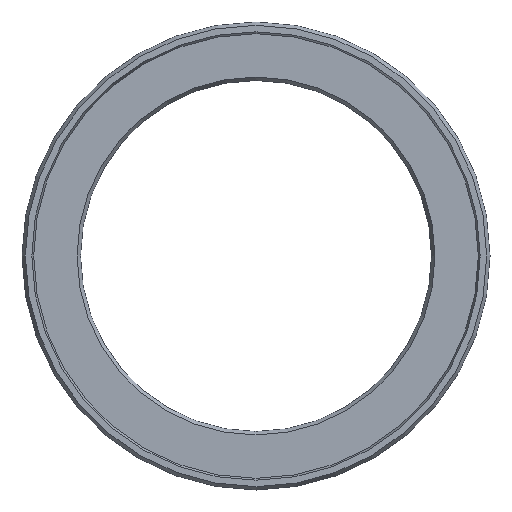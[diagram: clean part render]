
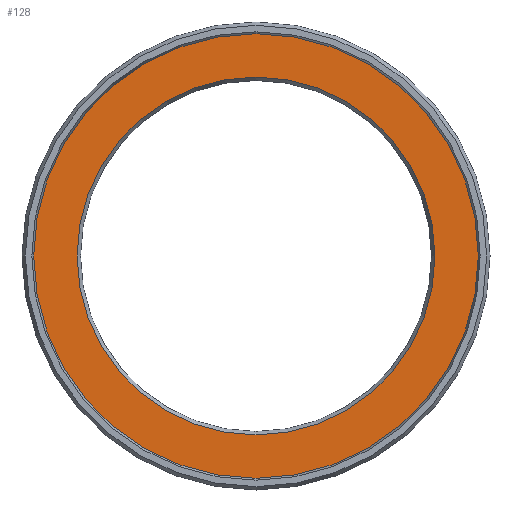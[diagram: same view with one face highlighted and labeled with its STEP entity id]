
A CAD part, left-side view. The second image highlights one B-rep face of the part: STEP entity #128.
In plain terms, the highlighted planar face has unit normal (-1, 0, 0).
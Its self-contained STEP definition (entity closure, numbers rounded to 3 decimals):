
#112=PLANE('',#329);
#128=ADVANCED_FACE('',(#163,#164),#112,.T.);
#163=FACE_BOUND('',#199,.T.);
#164=FACE_BOUND('',#200,.T.);
#199=EDGE_LOOP('',(#235));
#200=EDGE_LOOP('',(#236));
#235=ORIENTED_EDGE('',*,*,#276,.T.);
#236=ORIENTED_EDGE('',*,*,#275,.F.);
#257=VERTEX_POINT('',#454);
#258=VERTEX_POINT('',#457);
#275=EDGE_CURVE('',#257,#257,#293,.T.);
#276=EDGE_CURVE('',#258,#258,#294,.T.);
#293=CIRCLE('',#326,38.);
#294=CIRCLE('',#328,30.577);
#326=AXIS2_PLACEMENT_3D('',#453,#394,#395);
#328=AXIS2_PLACEMENT_3D('',#456,#398,#399);
#329=AXIS2_PLACEMENT_3D('',#458,#400,#401);
#394=DIRECTION('',(1.,0.,0.));
#395=DIRECTION('',(0.,0.,-1.));
#398=DIRECTION('',(1.,0.,0.));
#399=DIRECTION('',(0.,0.,1.));
#400=DIRECTION('',(-1.,0.,0.));
#401=DIRECTION('',(0.,0.,1.));
#453=CARTESIAN_POINT('',(0.,0.,0.));
#454=CARTESIAN_POINT('',(0.,0.,-38.));
#456=CARTESIAN_POINT('',(0.,0.,0.));
#457=CARTESIAN_POINT('',(0.,0.,30.577));
#458=CARTESIAN_POINT('',(0.,38.,0.));
